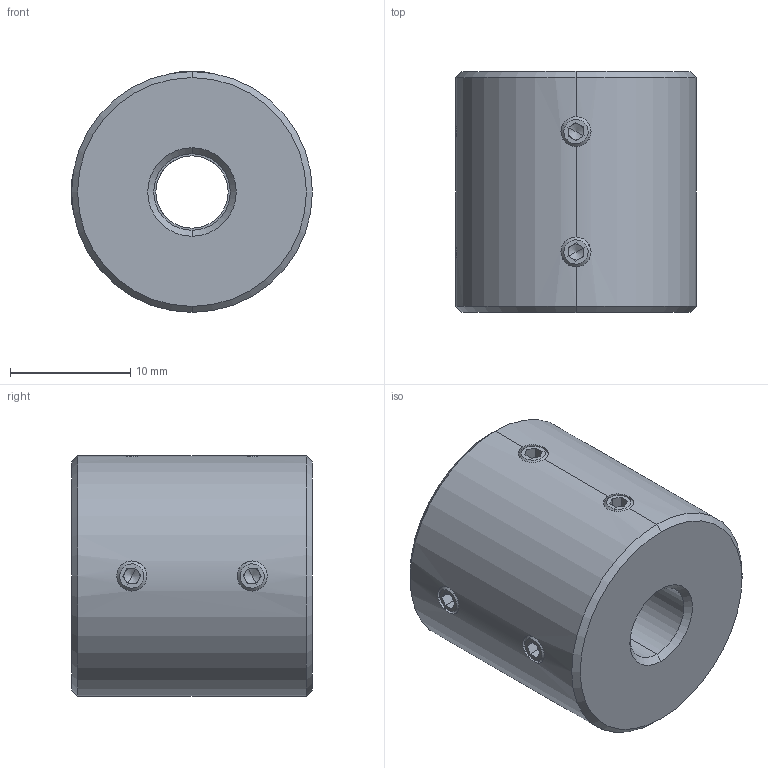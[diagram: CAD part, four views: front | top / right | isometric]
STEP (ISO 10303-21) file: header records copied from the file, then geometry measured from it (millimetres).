
FILE_DESCRIPTION (( 'STEP AP214' ), '1' );
FILE_NAME ('LL-D-D20L20-6-6.35.STEP', '2022-07-23T06:32:15', ( '' ), ( '' ), 'SwSTEP 2.0', 'SolidWorks 2022', '' );
FILE_SCHEMA (( 'AUTOMOTIVE_DESIGN' ));
Length unit declared in the file: millimetre
Products named in the file (1): LL-D-D20L20-6-6.35
Bounding box: 20 x 20 x 20 mm (x, y, z)
Volume: 5593.2 mm3; surface area: 2316 mm2
Topology: 1 solids, 1 shells, 113 faces, 286 edges, 176 vertices
Faces by surface type: plane 59, cone 32, cylinder 22
Entity records: 3638 total; most frequent: CARTESIAN_POINT 888, DIRECTION 582, ORIENTED_EDGE 556, EDGE_CURVE 278, AXIS2_PLACEMENT_3D 214, VERTEX_POINT 176, LINE 154, VECTOR 154
